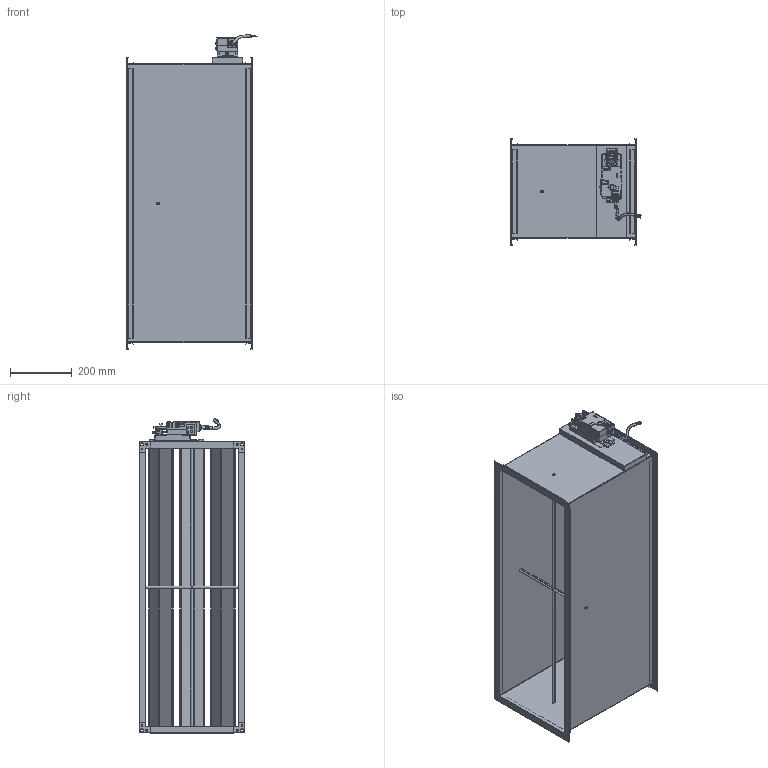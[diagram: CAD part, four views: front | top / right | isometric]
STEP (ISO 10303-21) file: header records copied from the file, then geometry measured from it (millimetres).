
FILE_DESCRIPTION (( 'STEP AP214' ), '1' );
FILE_NAME ('VAV-S900300.STEP', '2025-05-08T11:57:39', ( '' ), ( '' ), 'SwSTEP 2.0', 'SolidWorks 2025', '' );
FILE_SCHEMA (( 'AUTOMOTIVE_DESIGN' ));
Length unit declared in the file: millimetre
Products named in the file (1): VAV-S900300
Bounding box: 420.24 x 341 x 1013.68 mm (x, y, z)
Surface area: 3549182.8 mm2 (no closed solid volume)
Topology: 0 solids, 48 shells, 2056 faces, 5355 edges, 3404 vertices
Faces by surface type: plane 1525, cylinder 478, bspline 24, sphere 18, cone 10, torus 1
Full cylindrical faces by diameter (mm): 1 x4, 6 x17, 8 x1, 9 x8, 11 x1, 20 x1, 21 x2
Entity records: 90623 total; most frequent: CARTESIAN_POINT 41369, ORIENTED_EDGE 10499, DIRECTION 6669, EDGE_CURVE 5273, VERTEX_POINT 3379, B_SPLINE_CURVE_WITH_KNOTS 3170, AXIS2_PLACEMENT_3D 2545, EDGE_LOOP 2257
